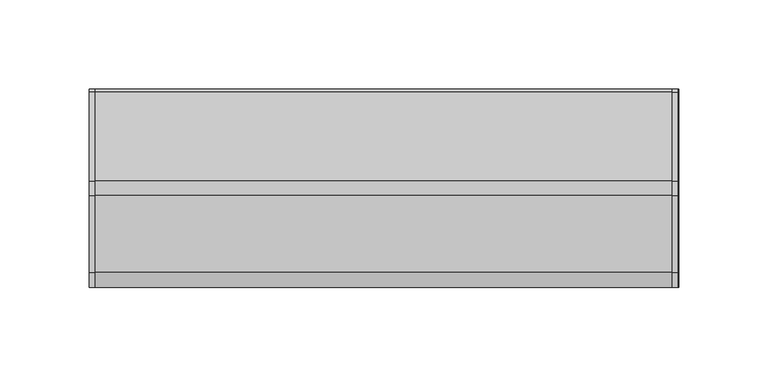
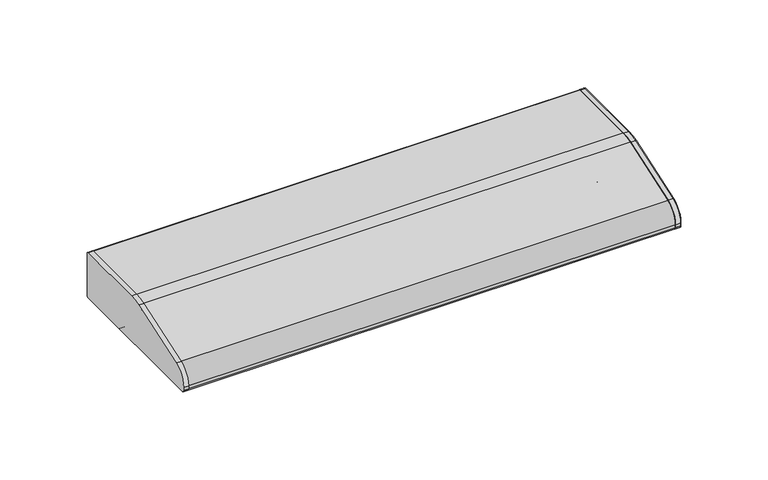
"""IFC4 building model written with IfcOpenShell, lengths in millimetres: light fixture geometry, HermanMiller_SupplementalProducts_G6136_UtilityTaskLight : AO Etho Canvas 24W."""

from ifc_helpers import new_model, si_unit, point, frame, frame_2d, origin, place, context, project, spatial, polyline, circle_curve, trimmed, segment, composite_curve, outline, extrude, source, transform, mapped, element, save


def light_fixture_64e15388(model_context):
    return source(origin(), model_context, "Body", "SweptSolid", [
        extrude(outline(composite_curve([segment(polyline([(53.975, 1206.5), (-53.975, 1206.5)]), True, "CONTINUOUS"), segment(trimmed(circle_curve(frame_2d((-53.975, 1208.0875)), 1.5875), [point((-53.975, 1206.5))], [point((-55.5625, 1208.0875))], False, "CARTESIAN"), True, "CONTINUOUS"), segment(polyline([(-55.5625, 1208.0875), (-55.5625, 1210.1285714)]), True, "CONTINUOUS"), segment(trimmed(circle_curve(frame_2d((-42.8625, 1210.1285714)), 12.7), [point((-55.5625, 1210.1285714))], [point((-46.9814189, 1222.1420849))], False, "CARTESIAN"), True, "CONTINUOUS"), segment(polyline([(-46.9814189, 1222.1420849), (-4.0045045, 1236.877027)]), True, "CONTINUOUS"), segment(trimmed(circle_curve(frame_2d((4.2333333, 1212.85)), 25.4), [point((-4.0045045, 1236.877027))], [point((4.2333333, 1238.25))], False, "CARTESIAN"), True, "CONTINUOUS"), segment(polyline([(4.2333333, 1238.25), (53.975, 1238.25)]), True, "CONTINUOUS"), segment(trimmed(circle_curve(frame_2d((53.975, 1236.6625)), 1.5875), [point((53.975, 1238.25))], [point((55.5625, 1236.6625))], False, "CARTESIAN"), True, "CONTINUOUS"), segment(polyline([(55.5625, 1236.6625), (55.5625, 1208.0875)]), True, "CONTINUOUS"), segment(trimmed(circle_curve(frame_2d((53.975, 1208.0875)), 1.5875), [point((55.5625, 1208.0875))], [point((53.975, 1206.5))], False, "CARTESIAN"), True, "CONTINUOUS")], self_intersect=False)), frame((161.544, 0.0, 0.0), z_axis=(1.0, 0.0, 0.0), x_axis=(0.0, 1.0, 0.0)), (0.0, 0.0, 1.0), 3.175),
        extrude(outline(composite_curve([segment(trimmed(circle_curve(frame_2d((53.975, 1236.6625)), 1.5875), [point((53.975, 1238.25))], [point((55.5625, 1236.6625))], False, "CARTESIAN"), True, "CONTINUOUS"), segment(polyline([(55.5625, 1236.6625), (55.5625, 1208.0875)]), True, "CONTINUOUS"), segment(trimmed(circle_curve(frame_2d((53.975, 1208.0875)), 1.5875), [point((55.5625, 1208.0875))], [point((53.975, 1206.5))], False, "CARTESIAN"), True, "CONTINUOUS"), segment(polyline([(53.975, 1206.5), (-53.975, 1206.5)]), True, "CONTINUOUS"), segment(trimmed(circle_curve(frame_2d((-53.975, 1208.0875)), 1.5875), [point((-53.975, 1206.5))], [point((-55.5625, 1208.0875))], False, "CARTESIAN"), True, "CONTINUOUS"), segment(polyline([(-55.5625, 1208.0875), (-55.5625, 1210.1285714)]), True, "CONTINUOUS"), segment(trimmed(circle_curve(frame_2d((-42.8625, 1210.1285714)), 12.7), [point((-55.5625, 1210.1285714))], [point((-46.9814189, 1222.1420849))], False, "CARTESIAN"), True, "CONTINUOUS"), segment(polyline([(-46.9814189, 1222.1420849), (-4.0045045, 1236.877027)]), True, "CONTINUOUS"), segment(trimmed(circle_curve(frame_2d((4.2333333, 1212.85)), 25.4), [point((-4.0045045, 1236.877027))], [point((4.2333333, 1238.25))], False, "CARTESIAN"), True, "CONTINUOUS"), segment(polyline([(4.2333333, 1238.25), (53.975, 1238.25)]), True, "CONTINUOUS")], self_intersect=False)), frame((-164.719, 0.0, 0.0), z_axis=(1.0, 0.0, 0.0), x_axis=(0.0, 1.0, 0.0)), (0.0, 0.0, 1.0), 3.175),
        extrude(outline(composite_curve([segment(polyline([(55.5625, 1236.6625), (55.5625, 1208.0875)]), True, "CONTINUOUS"), segment(trimmed(circle_curve(frame_2d((53.975, 1208.0875)), 1.5875), [point((55.5625, 1208.0875))], [point((53.975, 1206.5))], False, "CARTESIAN"), True, "CONTINUOUS"), segment(polyline([(53.975, 1206.5), (19.05, 1206.5)]), True, "CONTINUOUS"), segment(trimmed(circle_curve(frame_2d((19.05, 1208.0875)), 1.5875), [point((19.05, 1206.5))], [point((17.4625, 1208.0875))], False, "CARTESIAN"), True, "CONTINUOUS"), segment(polyline([(17.4625, 1208.0875), (17.4625, 1236.6625), (4.4979167, 1236.6625)]), True, "CONTINUOUS"), segment(trimmed(circle_curve(frame_2d((4.4979167, 1211.2625)), 25.4), [point((4.4979167, 1236.6625))], [point((-3.7399212, 1235.289527))], True, "CARTESIAN"), True, "CONTINUOUS"), segment(polyline([(-3.7399212, 1235.289527), (-37.4564189, 1223.7295849)]), True, "CONTINUOUS"), segment(trimmed(circle_curve(frame_2d((-33.3375, 1211.7160714)), 12.7), [point((-37.4564189, 1223.7295849))], [point((-46.0375, 1211.7160714))], True, "CARTESIAN"), True, "CONTINUOUS"), segment(polyline([(-46.0375, 1211.7160714), (-46.0375, 1208.0875)]), True, "CONTINUOUS"), segment(trimmed(circle_curve(frame_2d((-47.625, 1208.0875)), 1.5875), [point((-46.0375, 1208.0875))], [point((-47.625, 1206.5))], False, "CARTESIAN"), True, "CONTINUOUS"), segment(polyline([(-47.625, 1206.5), (-53.975, 1206.5)]), True, "CONTINUOUS"), segment(trimmed(circle_curve(frame_2d((-53.975, 1208.0875)), 1.5875), [point((-53.975, 1206.5))], [point((-55.5625, 1208.0875))], False, "CARTESIAN"), True, "CONTINUOUS"), segment(polyline([(-55.5625, 1208.0875), (-55.5625, 1210.1285714)]), True, "CONTINUOUS"), segment(trimmed(circle_curve(frame_2d((-42.8625, 1210.1285714)), 12.7), [point((-55.5625, 1210.1285714))], [point((-46.9814189, 1222.1420849))], False, "CARTESIAN"), True, "CONTINUOUS"), segment(polyline([(-46.9814189, 1222.1420849), (-4.0045045, 1236.877027)]), True, "CONTINUOUS"), segment(trimmed(circle_curve(frame_2d((4.2333333, 1212.85)), 25.4), [point((-4.0045045, 1236.877027))], [point((4.2333333, 1238.25))], False, "CARTESIAN"), True, "CONTINUOUS"), segment(polyline([(4.2333333, 1238.25), (53.975, 1238.25)]), True, "CONTINUOUS"), segment(trimmed(circle_curve(frame_2d((53.975, 1236.6625)), 1.5875), [point((53.975, 1238.25))], [point((55.5625, 1236.6625))], False, "CARTESIAN"), True, "CONTINUOUS")], self_intersect=False)), frame((-164.719, 0.0, 0.0), z_axis=(1.0, 0.0, 0.0), x_axis=(0.0, 1.0, 0.0)), (0.0, 0.0, 1.0), 329.9040011),
        extrude(outline(composite_curve([segment(trimmed(circle_curve(frame_2d((1.5875, 1223.9625)), 9.525), [point((-7.9375, 1223.9625))], [point((11.1125, 1223.9625))], False, "CARTESIAN"), True, "CONTINUOUS"), segment(trimmed(circle_curve(frame_2d((1.5875, 1223.9625)), 9.525), [point((11.1125, 1223.9625))], [point((-7.9375, 1223.9625))], False, "CARTESIAN"), True, "CONTINUOUS")], self_intersect=False)), frame((139.319, 0.0, 0.0), z_axis=(1.0, 0.0, 0.0), x_axis=(0.0, 1.0, 0.0)), (0.0, 0.0, 1.0), 12.7),
        extrude(outline(composite_curve([segment(trimmed(circle_curve(frame_2d((1.5875, 1223.9625)), 9.525), [point((-7.9375, 1223.9625))], [point((11.1125, 1223.9625))], False, "CARTESIAN"), True, "CONTINUOUS"), segment(trimmed(circle_curve(frame_2d((1.5875, 1223.9625)), 9.525), [point((11.1125, 1223.9625))], [point((-7.9375, 1223.9625))], False, "CARTESIAN"), True, "CONTINUOUS")], self_intersect=False)), frame((-152.019, 0.0, 0.0), z_axis=(1.0, 0.0, 0.0), x_axis=(0.0, 1.0, 0.0)), (0.0, 0.0, 1.0), 12.7),
        extrude(outline(composite_curve([segment(trimmed(circle_curve(frame_2d((1.5875, 1223.9625)), 9.525), [point((-7.9375, 1223.9625))], [point((11.1125, 1223.9625))], False, "CARTESIAN"), True, "CONTINUOUS"), segment(trimmed(circle_curve(frame_2d((1.5875, 1223.9625)), 9.525), [point((11.1125, 1223.9625))], [point((-7.9375, 1223.9625))], False, "CARTESIAN"), True, "CONTINUOUS")], self_intersect=False)), frame((-139.319, 0.0, 0.0), z_axis=(1.0, 0.0, 0.0), x_axis=(0.0, 1.0, 0.0)), (0.0, 0.0, 1.0), 278.638),
        extrude(outline(composite_curve([segment(polyline([(17.4625, 1209.675), (-46.0375, 1209.675), (-46.0375, 1211.7160714)]), True, "CONTINUOUS"), segment(trimmed(circle_curve(frame_2d((-33.3375, 1211.7160714)), 12.7), [point((-46.0375, 1211.7160714))], [point((-37.4564189, 1223.7295849))], False, "CARTESIAN"), True, "CONTINUOUS"), segment(polyline([(-37.4564189, 1223.7295849), (-3.7399212, 1235.289527)]), True, "CONTINUOUS"), segment(trimmed(circle_curve(frame_2d((4.4979167, 1211.2625)), 25.4), [point((-3.7399212, 1235.289527))], [point((4.4979167, 1236.6625))], False, "CARTESIAN"), True, "CONTINUOUS"), segment(polyline([(4.4979167, 1236.6625), (17.4625, 1236.6625), (17.4625, 1209.675)]), True, "CONTINUOUS")], self_intersect=False)), frame((152.019, 0.0, 0.0), z_axis=(1.0, 0.0, 0.0), x_axis=(0.0, 1.0, 0.0)), (0.0, 0.0, 1.0), 9.525),
        extrude(outline(composite_curve([segment(polyline([(17.4625, 1209.675), (-46.0375, 1209.675), (-46.0375, 1211.7160714)]), True, "CONTINUOUS"), segment(trimmed(circle_curve(frame_2d((-33.3375, 1211.7160714)), 12.7), [point((-46.0375, 1211.7160714))], [point((-37.4564189, 1223.7295849))], False, "CARTESIAN"), True, "CONTINUOUS"), segment(polyline([(-37.4564189, 1223.7295849), (-3.7399212, 1235.289527)]), True, "CONTINUOUS"), segment(trimmed(circle_curve(frame_2d((4.4979167, 1211.2625)), 25.4), [point((-3.7399212, 1235.289527))], [point((4.4979167, 1236.6625))], False, "CARTESIAN"), True, "CONTINUOUS"), segment(polyline([(4.4979167, 1236.6625), (17.4625, 1236.6625), (17.4625, 1209.675)]), True, "CONTINUOUS")], self_intersect=False)), frame((-161.544, 0.0, 0.0), z_axis=(1.0, 0.0, 0.0), x_axis=(0.0, 1.0, 0.0)), (0.0, 0.0, 1.0), 9.525),
    ])


if __name__ == "__main__":
    model = new_model("IFC4")
    model_context = context("Model", 3, world=origin())
    ifc_project = project(units=[si_unit("LENGTHUNIT", "METRE", prefix="MILLI")], contexts=[model_context])
    site = spatial("IfcSite", under=ifc_project)
    building = spatial("IfcBuilding", under=site)
    placement = place(None, origin())
    light_fixture_shape = light_fixture_64e15388(model_context)
    element("IfcLightFixture", 1, ObjectType="HermanMiller_SupplementalProducts_G6136_UtilityTaskLight : AO Etho Canvas 24W", at=placement, inside=building, context=model_context, shape_type="MappedRepresentation", body=[
        mapped(light_fixture_shape, transform((0.0, 0.0, 0.0), x_axis=(1.0, 0.0, 0.0), y_axis=(0.0, 1.0, 0.0), z_axis=(0.0, 0.0, 1.0))),
    ])
    save(model, "model.ifc")
